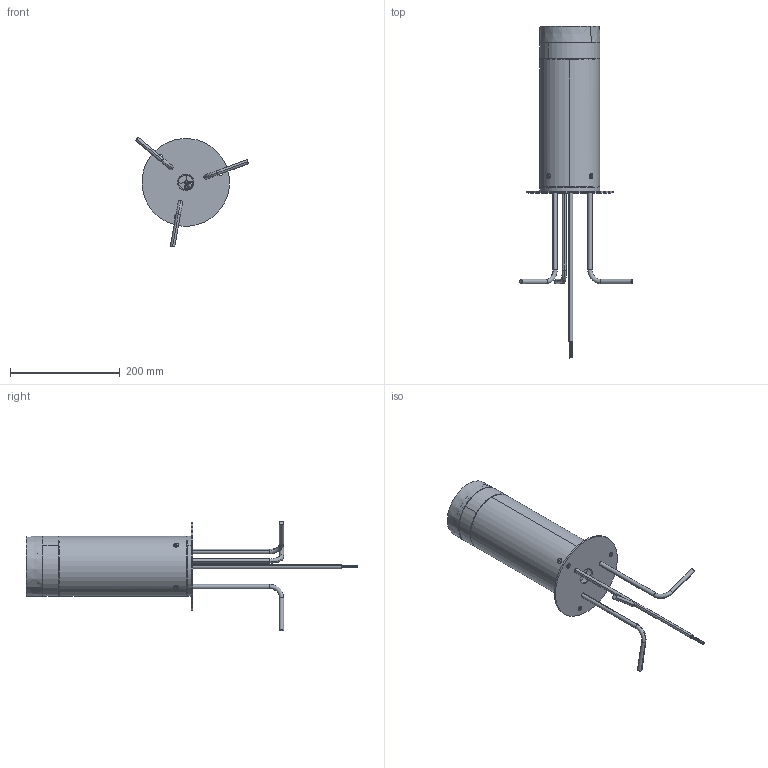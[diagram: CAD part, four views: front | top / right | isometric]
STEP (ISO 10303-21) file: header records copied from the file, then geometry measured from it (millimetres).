
FILE_DESCRIPTION((''),'2;1');
FILE_NAME('9AF_ASM','2025-05-19T',('C028'),(''),'CREO PARAMETRIC BY PTC INC, 2014190','CREO PARAMETRIC BY PTC INC, 2014190','');
FILE_SCHEMA(('CONFIG_CONTROL_DESIGN'));
Products named in the file (42): 9AD-07_300_11; 9AB-06_6; ___WO110__U_X___W_O__O___W___V2; ___WO110__U_X___W_O_________I_T; ___WO110__U_X___W_O_____PC_O_V2; ___WO110__U_X___W_O__O_______PC; M18_1; O-A1_1; ___WO110__U_X___W_O_V2______WO1_ASM; ______1_1; GUI_JIAO_QUAN_1; ___WO110__U_X___W_O____W_Z-5063_ASM; ____-____5_1; 9AB-03DUDINGZUOHOUGAI_1_8_1; ___WO110__U_X___W_O__U_O_-257_1; ___WO110__U_X___W_O__U_O_-257_2; ___WO110__U_X___W_O__U_O_-25766_ASM; LI_BAN-24_1; O-B1_1; DIAN_YUAN_01_1; DIAN_YUAN_02_1; ___WO110__U_X___W_O____W_-25881_ASM; LI_BAN_1; GUANZI_1_4; 12-ZHUANGJIEGGAI_3_1; 6-23_2; DICHA14A_ASM_1_ASM_4_ASM; PIN_1; M8-25_1; YUAN_GUAN-800_ASM_5_ASM; 9ABDIZUO_AF5_ASM_333_ASM_1_ANY__ASM; _____WO110_E_U_X___W_O_V2_180_A_ASM; 9AF-300_ASM_5_ASM; 9AF-300_ASM_ASM; M5_12_3; 9AB_FA_LAN_PAN_ZJ_ASM_3_ASM; M8LUOMU_3; 9AB-11_4; 9AB-10_5; 16_8_1PINGDIAN_2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
Assembly tree (59 placements, depth 7):
  9AF_ASM
    9AD-07_300_11
    9AB-06_6
    9AF-300_ASM_ASM
      9AF-300_ASM_5_ASM
        _____WO110_E_U_X___W_O_V2_180_A_ASM
          ___WO110__U_X___W_O_V2______WO1_ASM
            ___WO110__U_X___W_O__O___W___V2
            ___WO110__U_X___W_O_________I_T
            ___WO110__U_X___W_O_____PC_O_V2
            ___WO110__U_X___W_O__O_______PC
            M18_1
            O-A1_1
          ___WO110__U_X___W_O____W_Z-5063_ASM
            ______1_1
            GUI_JIAO_QUAN_1  x2
          ___WO110__U_X___W_O____W_-25881_ASM
            ____-____5_1
            9AB-03DUDINGZUOHOUGAI_1_8_1
            ___WO110__U_X___W_O__U_O_-25766_ASM
              ___WO110__U_X___W_O__U_O_-257_1
              ___WO110__U_X___W_O__U_O_-257_2
            LI_BAN-24_1
            O-B1_1
            DIAN_YUAN_01_1
            DIAN_YUAN_02_1
          YUAN_GUAN-800_ASM_5_ASM
            LI_BAN_1
            DICHA14A_ASM_1_ASM_4_ASM
              GUANZI_1_4
              12-ZHUANGJIEGGAI_3_1
              6-23_2
            PIN_1  x3
            M8-25_1  x3
          9ABDIZUO_AF5_ASM_333_ASM_1_ANY__ASM
    M5_12_3  x8
    9ABDIZUO_AF0_ASM_13_ASM
      9AB_FA_LAN_PAN_ZJ_ASM_3_ASM
      M8LUOMU_3  x3
      9AB-11_4  x3
      9AB-10_5
      16_8_1PINGDIAN_2  x3
Bounding box: 206.1 x 605.53 x 199.59 mm (x, y, z)
Volume: 1005019 mm3; surface area: 595357 mm2
Topology: 47 solids, 47 shells, 2395 faces, 6457 edges, 4287 vertices
Faces by surface type: plane 1014, cylinder 686, cone 311, torus 188, bspline 122, extrusion 66, sphere 8
Entity records: 84493 total; most frequent: CARTESIAN_POINT 32632, ORIENTED_EDGE 10786, DIRECTION 10669, EDGE_CURVE 5393, AXIS2_PLACEMENT_3D 3973, VERTEX_POINT 3595, VECTOR 2723, LINE 2657
